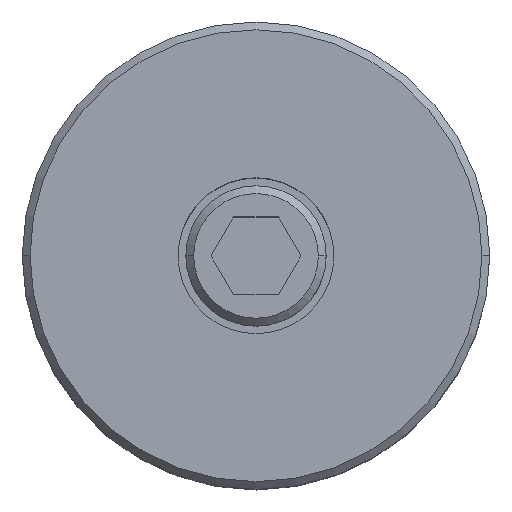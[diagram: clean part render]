
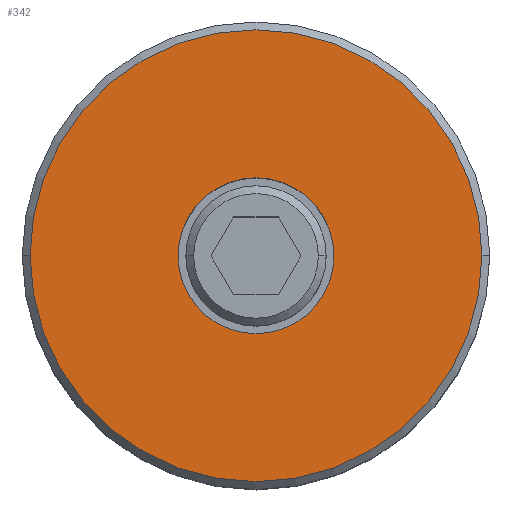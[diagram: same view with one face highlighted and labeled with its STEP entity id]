
A CAD part, top view. The second image highlights one B-rep face of the part: STEP entity #342.
In plain terms, the highlighted planar face has unit normal (0, 0, 1).
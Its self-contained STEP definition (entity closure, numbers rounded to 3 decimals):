
#101=VERTEX_POINT(' ',#102);
#102=CARTESIAN_POINT('',(-10.,0.,40.));
#103=VERTEX_POINT(' ',#104);
#104=CARTESIAN_POINT('',(10.,0.,40.));
#105=VERTEX_POINT(' ',#106);
#106=CARTESIAN_POINT('',(-29.,0.,40.));
#107=VERTEX_POINT(' ',#108);
#108=CARTESIAN_POINT('',(29.,0.,40.));
#172=CIRCLE('',#173,10.);
#173=AXIS2_PLACEMENT_3D('',#174,#175,#176);
#174=CARTESIAN_POINT('',(0.,0.,40.));
#175=DIRECTION('',(0.,0.,-1.));
#176=DIRECTION('',(0.,1.,0.));
#177=EDGE_CURVE(' ',#103,#101,#172,.T.);
#183=CIRCLE('',#184,10.);
#184=AXIS2_PLACEMENT_3D('',#185,#186,#187);
#185=CARTESIAN_POINT('',(0.,0.,40.));
#186=DIRECTION('',(0.,0.,-1.));
#187=DIRECTION('',(0.,-1.,0.));
#188=EDGE_CURVE(' ',#101,#103,#183,.T.);
#189=CIRCLE('',#190,29.);
#190=AXIS2_PLACEMENT_3D('',#191,#192,#193);
#191=CARTESIAN_POINT('',(0.,0.,40.));
#192=DIRECTION('',(0.,0.,-1.));
#193=DIRECTION('',(0.,1.,0.));
#194=EDGE_CURVE(' ',#107,#105,#189,.T.);
#195=CIRCLE('',#196,29.);
#196=AXIS2_PLACEMENT_3D('',#197,#198,#199);
#197=CARTESIAN_POINT('',(0.,0.,40.));
#198=DIRECTION('',(0.,0.,-1.));
#199=DIRECTION('',(0.,-1.,0.));
#200=EDGE_CURVE(' ',#105,#107,#195,.T.);
#329=ORIENTED_EDGE('',*,*,#194,.F.);
#330=ORIENTED_EDGE('',*,*,#200,.F.);
#331=EDGE_LOOP('',(#329,#330));
#332=FACE_OUTER_BOUND('',#331,.T.);
#333=ORIENTED_EDGE('',*,*,#188,.T.);
#334=ORIENTED_EDGE('',*,*,#177,.T.);
#335=EDGE_LOOP('',(#333,#334));
#336=FACE_BOUND('',#335,.T.);
#337=PLANE('',#338);
#338=AXIS2_PLACEMENT_3D('',#339,#340,#341);
#339=CARTESIAN_POINT('',(0.,0.,40.));
#340=DIRECTION('',(0.,0.,1.));
#341=DIRECTION('',(0.,1.,0.));
#342=ADVANCED_FACE('',(#332,#336),#337,.T.);
